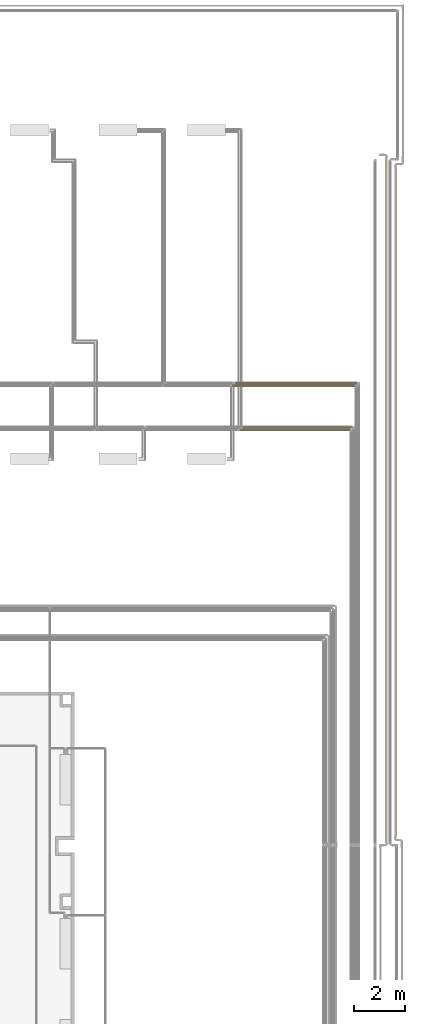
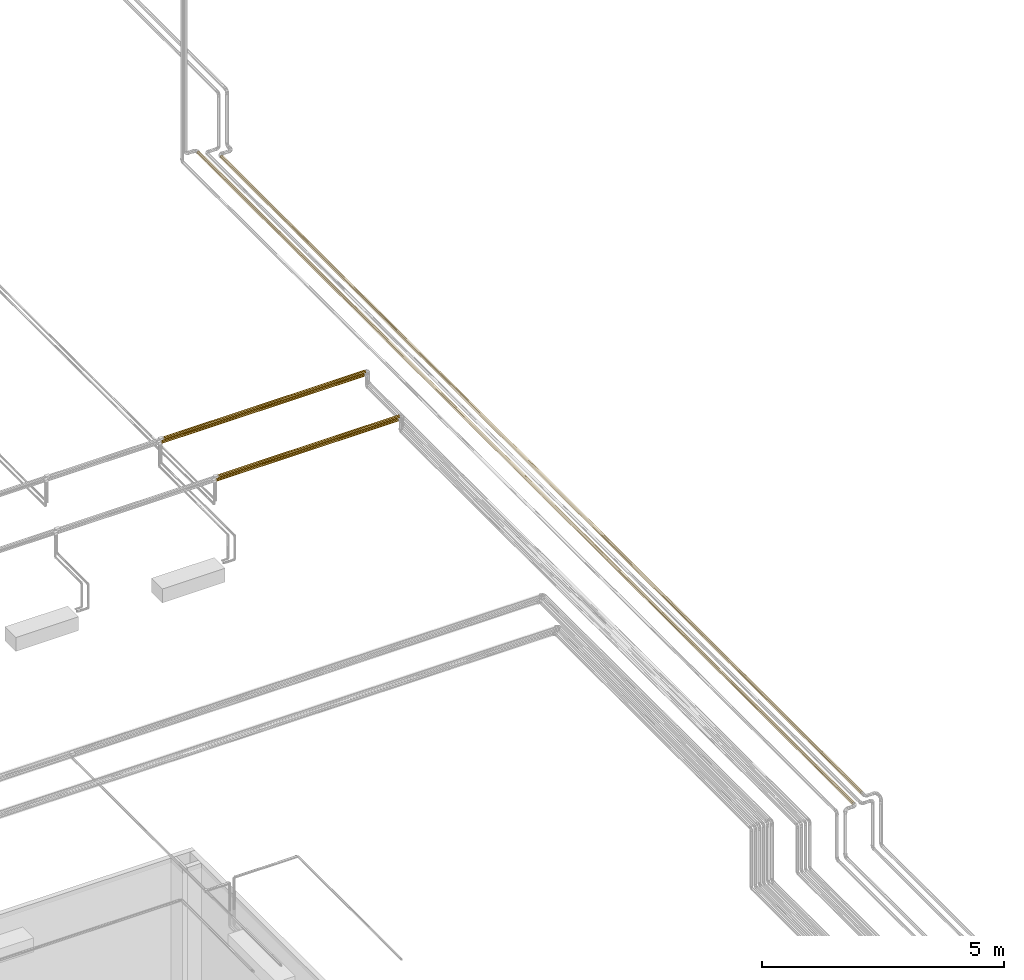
# One storey, part 139 of 652: 6 coverings.
"""IFC2X3 building model written with IfcOpenShell, lengths in millimetres."""

from ifc_helpers import new_model, entity, si_unit, converted_unit, direction, frame, origin, place, context, subcontext, project, spatial, faceted_brep, material, type_object, element, save


model = new_model("IFC2X3")

# Units and contexts
model_context = context("Model", 3, precision=0.01, world=frame((0.0, 0.0, 308426.39999999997)), true_north=direction((6.123233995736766e-17, 1.0)))
plan_context = context("Plan", 3, precision=0.01, world=frame((0.0, 0.0, 308426.39999999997)), true_north=direction((6.123233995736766e-17, 1.0)))
body_context = subcontext(model_context, "Body", "Model", "MODEL_VIEW")
ifc_project = project(units=[si_unit("LENGTHUNIT", "METRE", prefix="MILLI"), si_unit("AREAUNIT", "SQUARE_METRE"), si_unit("VOLUMEUNIT", "CUBIC_METRE"), converted_unit("PLANEANGLEUNIT", "DEGREE", entity("IfcPlaneAngleMeasure", 0.017453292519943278), si_unit("PLANEANGLEUNIT", "RADIAN"), dimensions=[0, 0, 0, 0, 0, 0, 0])], contexts=[model_context, plan_context])

# Site, building, storey
site_placement = place(None, origin())
site = spatial("IfcSite", under=ifc_project, at=site_placement, Name="Default", CompositionType="ELEMENT")
building_placement = place(site_placement, origin())
building = spatial("IfcBuilding", under=site, at=building_placement, CompositionType="ELEMENT")
storey_placement = place(building_placement, frame((0.0, 0.0, 1730.6999999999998)))
storey = spatial("IfcBuildingStorey", under=building, at=storey_placement, Name="EG_Produktion_FFB", CompositionType="ELEMENT", Elevation=1730.6999999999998)

# Coverings
ifc_material = material(Name="Dämmung - Armaflex-Schlauch")
covering_type = type_object("IfcCoveringType", Name="Rohrdämmung außen:Armaflex-Schlauch", PredefinedType="INSULATION")
covering_1_placement = place(storey_placement, frame((79280.49747546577, 51981.928353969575, 3558.404727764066)))
element("IfcCovering", 1, at=covering_1_placement, inside=storey, type_object=covering_type, material=ifc_material, Name="Rohrdämmung außen:Armaflex-Schlauch", ObjectType="Rohrdämmung außen:Armaflex-Schlauch", PredefinedType="INSULATION", context=body_context, shape_type="Brep", body=[
    faceted_brep([(69.87954348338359, 26507.081749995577, 13.311000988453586), (62.80847567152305, 26507.081749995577, 10.382068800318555), (55.737407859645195, 26507.081749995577, 7.453136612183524), (47.9575492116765, 26507.081749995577, 4.23061364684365), (41.595272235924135, 26507.081749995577, 1.595272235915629), (34.524204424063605, 26507.081749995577, 4.524204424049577), (27.45313661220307, 26507.081749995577, 7.453136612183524), (20.382068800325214, 26507.081749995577, 10.382068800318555), (13.311000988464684, 26507.081749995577, 13.311000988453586), (10.382068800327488, 26507.081749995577, 20.382068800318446), (7.453136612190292, 26507.081749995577, 27.453136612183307), (4.230613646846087, 26507.081749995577, 35.232995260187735), (1.5952722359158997, 26507.081749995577, 41.595272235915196), (4.524204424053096, 26507.081749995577, 48.66634004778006), (7.453136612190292, 26507.081749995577, 55.737407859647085), (10.382068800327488, 26507.081749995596, 62.80847567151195), (13.311000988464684, 26507.081749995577, 69.8795434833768), (20.382068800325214, 26507.081749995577, 72.80847567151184), (27.45313661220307, 26507.081749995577, 75.73740785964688), (35.232995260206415, 26507.081749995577, 78.95993082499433), (41.595272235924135, 26507.081749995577, 81.59527223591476), (48.666340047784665, 26507.081749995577, 78.66634004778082), (55.737407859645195, 26507.081749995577, 75.73740785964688), (62.80847567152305, 26507.081749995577, 72.80847567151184), (69.87954348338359, 26507.081749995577, 69.8795434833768), (72.80847567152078, 26507.081749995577, 62.80847567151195), (75.73740785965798, 26507.081749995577, 55.737407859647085), (78.9599308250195, 26507.081749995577, 47.95754921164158), (81.59527223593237, 26507.081749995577, 41.595272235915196), (78.95993082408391, 26507.081749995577, 35.23299525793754), (75.73740785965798, 26507.081749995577, 27.453136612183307), (72.80847567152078, 26507.081749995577, 20.382068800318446), (69.87954348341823, 0.0, 69.87954348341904), (62.80847567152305, 0.0, 72.8084756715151), (55.73740785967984, 0.0, 75.73740785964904), (47.957549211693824, 0.0, 78.95993082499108), (41.59527223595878, 0.0, 81.595272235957), (35.232995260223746, 0.0, 78.95993082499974), (28.870718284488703, 0.0, 76.32458941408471), (21.09085963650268, 0.0, 73.10206644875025), (13.311000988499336, 0.0, 69.87954348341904), (10.38206880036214, 0.0, 62.80847567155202), (7.453136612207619, 0.0, 55.73740785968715), (4.230613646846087, 0.0, 47.95754921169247), (1.5952722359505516, 0.0, 41.59527223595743), (4.230613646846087, 0.0, 35.232995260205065), (6.865955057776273, 0.0, 28.8707182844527), (10.088478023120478, 0.0, 21.090859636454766), (13.311000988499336, 0.0, 13.311000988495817), (20.38206880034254, 0.0, 10.38206880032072), (27.45313661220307, 0.0, 7.45313661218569), (35.23299526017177, 0.0, 4.230613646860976), (41.59527223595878, 0.0, 1.5952722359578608), (47.95754921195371, 0.0, 4.230613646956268), (54.31982618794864, 0.0, 6.865955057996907), (62.0996848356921, 0.0, 10.088478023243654), (69.87954348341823, 0.0, 13.311000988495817), (72.80847567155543, 0.0, 20.38206880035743), (75.7374078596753, 0.0, 27.45313661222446), (78.66634004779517, 0.0, 34.52420442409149), (81.59527223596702, 0.0, 41.59527223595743), (78.95993082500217, 0.0, 47.95754921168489), (76.324589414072, 0.0, 54.31982618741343), (73.10206644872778, 0.0, 62.09968483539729), (81.5952722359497, 14133.425923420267, 41.595272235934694), (69.87954348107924, 17553.19631406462, 13.311000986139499), (74.85405672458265, 13253.54087303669, 19.372462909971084), (79.98529640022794, 15834.769941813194, 30.361125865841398), (63.818081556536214, 13253.54087550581, 8.336487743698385), (52.829418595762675, 15834.769951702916, 3.205248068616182), (41.59527223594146, 14133.658823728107, 1.595272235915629), (41.59527223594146, 12373.240935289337, 1.595272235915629), (30.361125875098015, 10672.311798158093, 3.2052480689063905), (13.311000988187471, 17553.196313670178, 13.311000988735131), (19.372462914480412, 13253.54087479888, 8.336487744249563), (8.336487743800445, 13253.540875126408, 19.372462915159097), (3.2052480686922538, 15834.769952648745, 30.361125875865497), (1.5952722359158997, 14134.389498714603, 41.595272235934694), (1.5952722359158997, 12374.496806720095, 41.59527223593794), (3.205248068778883, 10672.311797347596, 52.82941859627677), (19.37246291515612, 13253.54087506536, 74.85405672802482), (30.36112587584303, 15834.769952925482, 79.98529640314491), (8.336487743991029, 13253.540874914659, 63.818081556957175), (13.31100098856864, 17553.196313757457, 69.87954348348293), (41.59527223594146, 14133.42591247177, 81.59527223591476), (41.59527223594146, 12373.655837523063, 81.59527223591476), (52.829418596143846, 10672.31179706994, 79.9852964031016), (74.8540567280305, 13253.5408750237, 63.81808155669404), (79.98529640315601, 15834.769953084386, 52.82941859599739), (63.818081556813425, 13253.540874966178, 74.85405672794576), (69.87954348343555, 17553.196313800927, 69.87954348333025)], [[[0, 1, 2, 3, 4, 5, 6, 7, 8, 9, 10, 11, 12, 13, 14, 15, 16, 17, 18, 19, 20, 21, 22, 23, 24, 25, 26, 27, 28, 29, 30, 31]], [[32, 33, 34, 35, 36, 37, 38, 39, 40, 41, 42, 43, 44, 45, 46, 47, 48, 49, 50, 51, 52, 53, 54, 55, 56, 57, 58, 59, 60, 61, 62, 63]], [[60, 59, 64]], [[64, 29, 28]], [[65, 0, 31]], [[66, 58, 57, 56]], [[67, 29, 64]], [[31, 30, 66]], [[68, 2, 1]], [[59, 58, 67]], [[56, 65, 66]], [[68, 65, 56]], [[64, 59, 67]], [[30, 29, 67]], [[30, 67, 66]], [[69, 54, 53]], [[69, 3, 2]], [[68, 56, 55, 54]], [[70, 3, 69]], [[70, 4, 3]], [[0, 65, 1]], [[53, 52, 71, 70]], [[69, 68, 54]], [[65, 31, 66]], [[58, 66, 67]], [[2, 68, 69]], [[1, 65, 68]], [[53, 70, 69]], [[71, 51, 72]], [[48, 73, 74]], [[72, 6, 5]], [[50, 74, 72]], [[10, 75, 76]], [[74, 7, 6]], [[10, 76, 11]], [[75, 73, 48]], [[72, 51, 50]], [[71, 52, 51]], [[73, 8, 7]], [[5, 4, 70, 71]], [[74, 50, 49, 48]], [[72, 74, 6]], [[76, 46, 45]], [[11, 76, 77]], [[75, 48, 47, 46]], [[77, 12, 11]], [[73, 9, 8]], [[45, 44, 78, 77]], [[75, 10, 9]], [[76, 75, 46]], [[73, 7, 74]], [[5, 71, 72]], [[9, 73, 75]], [[45, 77, 76]], [[78, 43, 79]], [[18, 80, 81]], [[79, 14, 13]], [[42, 82, 79]], [[80, 18, 17]], [[82, 15, 14]], [[18, 81, 19]], [[80, 83, 40]], [[79, 43, 42]], [[78, 44, 43]], [[83, 16, 15]], [[13, 12, 77, 78]], [[82, 42, 41, 40]], [[79, 82, 14]], [[81, 38, 37]], [[19, 81, 84]], [[80, 40, 39, 38]], [[84, 20, 19]], [[16, 83, 17]], [[37, 36, 85, 84]], [[40, 83, 82]], [[81, 80, 38]], [[83, 15, 82]], [[13, 78, 79]], [[17, 83, 80]], [[37, 84, 81]], [[85, 35, 86]], [[26, 87, 88]], [[86, 22, 21]], [[89, 34, 33, 32]], [[87, 26, 25]], [[89, 23, 22]], [[32, 90, 89]], [[87, 90, 32]], [[86, 35, 34]], [[85, 36, 35]], [[90, 24, 23]], [[21, 20, 84, 85]], [[90, 23, 89]], [[86, 89, 22]], [[88, 62, 61]], [[88, 27, 26]], [[87, 32, 63, 62]], [[64, 27, 88]], [[64, 28, 27]], [[24, 90, 25]], [[61, 60, 64]], [[88, 87, 62]], [[34, 89, 86]], [[21, 85, 86]], [[25, 90, 87]], [[61, 64, 88]]]),
])
covering_2_placement = place(storey_placement, frame((78938.40472776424, 51727.7483539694, 3558.4047277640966)))
element("IfcCovering", 2, at=covering_2_placement, inside=storey, type_object=covering_type, material=ifc_material, Name="Rohrdämmung außen:Armaflex-Schlauch", ObjectType="Rohrdämmung außen:Armaflex-Schlauch", PredefinedType="INSULATION", context=body_context, shape_type="Brep", body=[
    faceted_brep([(69.87954348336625, 0.0, 69.87954348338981), (62.808475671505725, 0.0, 72.80847567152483), (55.737407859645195, 0.0, 75.73740785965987), (47.95754921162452, 0.0, 78.95993082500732), (41.595272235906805, 0.0, 81.59527223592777), (35.23299526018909, 0.0, 78.95993082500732), (27.453136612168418, 0.0, 75.73740785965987), (20.382068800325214, 0.0, 72.80847567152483), (13.31100098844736, 0.0, 69.87954348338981), (10.382068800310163, 0.0, 62.808475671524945), (7.453136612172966, 0.0, 55.73740785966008), (4.230613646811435, 0.0, 47.95754921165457), (1.5952722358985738, 0.0, 41.59527223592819), (4.230613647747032, 0.0, 35.23299525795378), (7.453136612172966, 0.0, 27.453136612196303), (10.382068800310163, 0.0, 20.38206880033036), (13.31100098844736, 0.0, 13.31100098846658), (20.382068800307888, 0.0, 10.382068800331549), (27.453136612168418, 0.0, 7.453136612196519), (35.23299526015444, 0.0, 4.230613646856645), (41.595272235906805, 0.0, 1.5952722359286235), (48.666340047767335, 0.0, 4.524204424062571), (55.737407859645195, 0.0, 7.453136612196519), (62.808475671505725, 0.0, 10.382068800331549), (69.87954348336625, 0.0, 13.31100098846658), (72.80847567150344, 0.0, 20.382068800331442), (75.73740785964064, 0.0, 27.453136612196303), (78.95993082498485, 0.0, 35.23299526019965), (81.59527223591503, 0.0, 41.59527223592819), (78.66634004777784, 0.0, 48.66634004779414), (75.73740785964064, 0.0, 55.73740785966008), (72.80847567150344, 0.0, 62.808475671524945), (69.87954348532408, 27131.39230701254, 13.311000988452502), (62.80847567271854, 27131.39230701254, 10.382068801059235), (55.737407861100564, 27131.39230701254, 7.4531366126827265), (47.95754921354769, 27131.39230701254, 4.230613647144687), (41.59527223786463, 27131.39230701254, 1.5952722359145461), (35.23299526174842, 27131.39230701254, 4.23061364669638), (28.87071828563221, 27131.39230701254, 6.86595505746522), (21.090859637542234, 27131.39230701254, 10.088478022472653), (13.311000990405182, 27131.39230701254, 13.311000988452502), (10.382068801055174, 27131.39230701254, 20.38206879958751), (7.453136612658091, 27131.39230701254, 27.453136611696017), (4.230613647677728, 27131.39230701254, 35.23299525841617), (1.5952722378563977, 27131.39230701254, 41.595272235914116), (4.230613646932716, 27131.39230701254, 47.95754921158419), (7.453136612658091, 27131.39230701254, 55.73740786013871), (10.38206880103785, 27131.39230701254, 62.80847567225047), (13.311000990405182, 27131.39230701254, 69.87954348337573), (21.090859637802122, 27131.39230701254, 73.10206644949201), (28.870718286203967, 27131.39230701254, 76.32458941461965), (35.23299526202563, 27131.39230701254, 78.9599308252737), (41.59527223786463, 27131.39230701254, 81.59527223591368), (47.95754921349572, 27131.39230701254, 78.9599308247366), (55.737407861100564, 27131.39230701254, 75.73740785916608), (62.80847567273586, 27131.39230701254, 72.80847567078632), (69.87954348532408, 27131.39230701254, 69.87954348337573), (73.10206644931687, 27131.39230701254, 62.09968483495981), (76.32458941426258, 27131.392307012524, 54.31982618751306), (78.9599308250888, 27131.39230701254, 47.957549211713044), (81.59527223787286, 27131.39230701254, 41.595272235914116), (78.95993082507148, 27131.39230701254, 35.23299526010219), (76.32458941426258, 27131.39230701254, 28.870718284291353), (73.10206644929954, 27131.39230701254, 21.09085963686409), (3.205248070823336, 16137.688531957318, 30.361125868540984), (8.336487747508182, 13565.696155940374, 19.37246290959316), (1.5952722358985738, 12997.966383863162, 41.5952722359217), (13.3110009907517, 9056.414681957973, 13.31100098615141), (1.5952722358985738, 14133.425912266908, 41.5952722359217), (19.37246291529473, 13565.69615259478, 8.336487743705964), (30.36112587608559, 10769.02299548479, 3.205248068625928), (34.37736156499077, 19873.725424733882, 2.2518894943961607), (41.595272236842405, 12997.950593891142, 1.5952722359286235), (41.595272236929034, 14133.502489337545, 1.5952722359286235), (25.973192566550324, 18372.4608202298, 4.772037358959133), (52.829418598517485, 16362.369311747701, 3.2052480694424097), (69.87954348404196, 9056.414682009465, 13.31100098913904), (63.81808155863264, 13565.696154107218, 8.336487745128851), (74.8540567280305, 13565.69615297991, 19.372462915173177), (79.98529640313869, 10769.022993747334, 30.361125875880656), (80.93865497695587, 19873.72542430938, 34.37736156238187), (81.59527223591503, 12997.074159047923, 41.5952722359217), (81.59527223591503, 13001.037357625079, 41.5952722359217), (78.41850711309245, 18372.460815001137, 25.973192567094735), (80.9726637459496, 20064.67935047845, 48.625282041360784), (63.818081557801, 13565.696153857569, 74.85405672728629), (41.59527223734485, 20064.72869347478, 81.59527223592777), (41.595272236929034, 14133.470080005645, 81.59527223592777), (69.87954348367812, 9056.414682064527, 69.87954348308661), (41.595272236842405, 12998.065079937, 81.59527223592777), (74.85405672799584, 13565.696153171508, 63.81808155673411), (80.24050937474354, 9624.44901252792, 51.917367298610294), (52.82941859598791, 10993.70377268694, 79.9852964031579), (78.47693131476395, 18299.11961220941, 57.078915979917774), (13.311000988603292, 9056.414682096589, 69.87954348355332), (19.37246291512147, 13565.696153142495, 74.85405672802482), (8.336487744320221, 13565.696153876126, 63.8180815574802), (31.11883450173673, 16531.32287336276, 80.19895408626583), (3.2052480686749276, 10993.703773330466, 52.8294185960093)], [[[0, 1, 2, 3, 4, 5, 6, 7, 8, 9, 10, 11, 12, 13, 14, 15, 16, 17, 18, 19, 20, 21, 22, 23, 24, 25, 26, 27, 28, 29, 30, 31]], [[32, 33, 34, 35, 36, 37, 38, 39, 40, 41, 42, 43, 44, 45, 46, 47, 48, 49, 50, 51, 52, 53, 54, 55, 56, 57, 58, 59, 60, 61, 62, 63]], [[64, 43, 42]], [[65, 42, 41, 40]], [[12, 66, 13]], [[67, 16, 15]], [[43, 66, 68, 44]], [[14, 13, 64]], [[69, 18, 17]], [[64, 66, 43]], [[67, 15, 65]], [[69, 67, 40]], [[70, 71, 72]], [[18, 70, 19]], [[19, 70, 72]], [[71, 36, 73, 72]], [[69, 39, 74]], [[14, 65, 15]], [[42, 65, 64]], [[64, 13, 66]], [[14, 64, 65]], [[72, 20, 19]], [[16, 67, 17]], [[40, 67, 65]], [[70, 74, 71]], [[74, 70, 69]], [[71, 38, 37, 36]], [[18, 69, 70]], [[38, 71, 74]], [[39, 69, 40]], [[39, 38, 74]], [[17, 67, 69]], [[73, 35, 75]], [[75, 22, 21]], [[21, 20, 72, 73]], [[76, 24, 23]], [[73, 36, 35]], [[77, 34, 33, 32]], [[26, 78, 79]], [[76, 23, 77]], [[26, 79, 27]], [[78, 76, 32]], [[75, 35, 34]], [[79, 80, 81]], [[27, 79, 81]], [[80, 60, 82, 81]], [[78, 63, 83]], [[22, 77, 23]], [[34, 77, 75]], [[75, 77, 22]], [[81, 28, 27]], [[76, 25, 24]], [[78, 26, 25]], [[79, 83, 80]], [[83, 79, 78]], [[80, 62, 61, 60]], [[32, 76, 77]], [[62, 80, 83]], [[63, 78, 32]], [[63, 62, 83]], [[25, 76, 78]], [[21, 73, 75]], [[60, 84, 82]], [[85, 56, 55, 54]], [[53, 52, 86, 87]], [[0, 88, 1]], [[3, 87, 89, 4]], [[90, 30, 91]], [[85, 2, 1]], [[2, 85, 92]], [[91, 82, 84]], [[84, 60, 59, 58]], [[91, 28, 81, 82]], [[90, 93, 57]], [[56, 85, 88]], [[53, 92, 54]], [[85, 1, 88]], [[3, 2, 92]], [[58, 93, 84]], [[88, 31, 90]], [[91, 84, 93]], [[91, 30, 29, 28]], [[57, 56, 90]], [[91, 93, 90]], [[93, 58, 57]], [[31, 88, 0]], [[31, 30, 90]], [[56, 88, 90]], [[87, 3, 92]], [[92, 53, 87]], [[54, 92, 85]], [[94, 7, 95]], [[94, 48, 96]], [[6, 5, 97]], [[97, 51, 50]], [[96, 48, 47, 46]], [[96, 10, 9]], [[86, 51, 97]], [[5, 4, 89]], [[94, 8, 7]], [[86, 52, 51]], [[44, 68, 45]], [[8, 94, 9]], [[11, 68, 66, 12]], [[95, 50, 49, 48]], [[98, 11, 10]], [[45, 98, 46]], [[98, 68, 11]], [[97, 89, 87, 86]], [[48, 94, 95]], [[97, 5, 89]], [[6, 97, 95]], [[50, 95, 97]], [[6, 95, 7]], [[9, 94, 96]], [[10, 96, 98]], [[98, 45, 68]], [[46, 98, 96]]]),
])
covering_3_placement = place(storey_placement, frame((72986.75968313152, 69876.94222776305, 3938.0577722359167)))
element("IfcCovering", 3, at=covering_3_placement, inside=storey, type_object=covering_type, material=ifc_material, Name="Rohrdämmung außen:Armaflex-Schlauch", ObjectType="Rohrdämmung außen:Armaflex-Schlauch", PredefinedType="INSULATION", context=body_context, shape_type="Brep", body=[
    faceted_brep([(0.0, 1.5952722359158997, -38.057772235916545), (0.0, 4.917909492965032, -30.036216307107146), (0.0, 6.935081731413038, -25.16633173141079), (0.0, 9.604986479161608, -18.72061147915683), (0.0, 12.274891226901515, -12.274891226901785), (0.0, 18.72061147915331, -9.604986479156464), (0.0, 25.166331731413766, -6.935081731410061), (0.0, 31.612051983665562, -4.265176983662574), (0.0, 38.057772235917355, -1.5952722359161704), (0.0, 46.07932816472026, -4.917909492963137), (0.0, 50.94921274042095, -6.935081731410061), (0.0, 57.39493299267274, -9.604986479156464), (0.0, 63.8406532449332, -12.274891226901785), (0.0, 66.51055799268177, -18.72061147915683), (0.0, 69.18046274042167, -25.166331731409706), (0.0, 71.85036748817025, -31.612051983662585), (0.0, 74.52027223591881, -38.057772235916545), (0.0, 71.85036748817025, -44.50349248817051), (0.0, 69.18046274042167, -50.949212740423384), (0.0, 66.5105579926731, -57.39493299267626), (0.0, 63.8406532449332, -63.8406532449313), (0.0, 57.39493299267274, -66.51055799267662), (0.0, 50.94921274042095, -69.18046274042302), (0.0, 44.50349248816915, -71.85036748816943), (0.0, 38.057772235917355, -74.52027223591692), (0.0, 30.036216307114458, -71.19763497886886), (0.0, 25.166331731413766, -69.18046274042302), (0.0, 18.72061147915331, -66.5105579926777), (0.0, 12.274891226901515, -63.8406532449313), (0.0, 9.604986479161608, -57.39493299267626), (0.0, 6.935081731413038, -50.949212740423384), (0.0, 4.265176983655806, -44.50349248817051), (4819.156066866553, 18.72061147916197, -66.51055799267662), (4819.156066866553, 25.166331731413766, -69.18046274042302), (4819.156066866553, 31.612051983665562, -71.85036748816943), (4819.156066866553, 38.057772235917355, -74.52027223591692), (4819.156066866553, 46.0793281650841, -71.19763497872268), (4819.156066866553, 54.100884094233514, -67.87499772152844), (4819.156066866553, 63.8406532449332, -63.8406532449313), (4819.156066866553, 66.5105579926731, -57.39493299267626), (4819.156066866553, 69.18046274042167, -50.949212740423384), (4819.1560668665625, 71.85036748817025, -44.50349248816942), (4819.156066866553, 74.52027223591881, -38.057772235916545), (4819.156066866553, 71.19763497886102, -30.036216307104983), (4819.156066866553, 67.87499772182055, -22.0146603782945), (4819.156066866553, 63.8406532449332, -12.274891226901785), (4819.156066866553, 57.394932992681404, -9.604986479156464), (4819.156066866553, 50.94921274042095, -6.935081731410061), (4819.156066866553, 44.50349248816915, -4.265176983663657), (4819.156066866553, 38.057772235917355, -1.5952722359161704), (4819.156066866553, 30.03621630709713, -4.917909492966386), (4819.1560668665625, 22.01466037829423, -8.240546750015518), (4819.156066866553, 12.274891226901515, -12.274891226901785), (4819.156066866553, 9.604986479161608, -18.72061147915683), (4819.156066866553, 6.935081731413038, -25.166331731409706), (4819.156066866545, 4.265176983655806, -31.612051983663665), (4819.156066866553, 1.5952722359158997, -38.057772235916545), (4819.156066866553, 4.917909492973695, -46.07932816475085), (4819.156066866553, 8.24054675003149, -54.10088409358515), (4819.156066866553, 12.274891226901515, -63.8406532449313)], [[[0, 1, 2, 3, 4, 5, 6, 7, 8, 9, 10, 11, 12, 13, 14, 15, 16, 17, 18, 19, 20, 21, 22, 23, 24, 25, 26, 27, 28, 29, 30, 31]], [[32, 33, 34, 35, 36, 37, 38, 39, 40, 41, 42, 43, 44, 45, 46, 47, 48, 49, 50, 51, 52, 53, 54, 55, 56, 57, 58, 59]], [[40, 39, 38, 20, 19, 18, 17, 16, 42, 41]], [[38, 37, 36, 35, 24, 23, 22, 21, 20]], [[56, 0, 31, 30, 29, 28, 59, 58, 57]], [[27, 26, 25, 24, 35, 34, 33, 32, 59, 28]], [[49, 8, 7, 6, 5, 4, 52, 51, 50]], [[3, 2, 1, 0, 56, 55, 54, 53, 52, 4]], [[42, 16, 15, 14, 13, 12, 45, 44, 43]], [[11, 10, 9, 8, 49, 48, 47, 46, 45, 12]]]),
])
covering_4_placement = place(storey_placement, frame((73286.75968313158, 68126.94222776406, 3938.057772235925)))
element("IfcCovering", 4, at=covering_4_placement, inside=storey, type_object=covering_type, material=ifc_material, Name="Rohrdämmung außen:Armaflex-Schlauch", ObjectType="Rohrdämmung außen:Armaflex-Schlauch", PredefinedType="INSULATION", context=body_context, shape_type="Brep", body=[
    faceted_brep([(4319.156066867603, 74.52027223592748, -38.057772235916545), (4319.156066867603, 70.81299534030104, -29.107614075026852), (4319.156066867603, 69.180462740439, -25.166331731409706), (4319.156066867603, 66.51055799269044, -18.720611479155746), (4319.156066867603, 63.84065324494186, -12.274891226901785), (4319.156066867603, 57.394932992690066, -9.604986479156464), (4319.156066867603, 50.94921274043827, -6.935081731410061), (4319.156066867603, 44.50349248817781, -4.265176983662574), (4319.156066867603, 38.057772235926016, -1.5952722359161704), (4319.156066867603, 29.107614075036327, -5.302549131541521), (4319.156066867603, 25.166331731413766, -6.935081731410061), (4319.156066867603, 18.72061147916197, -9.604986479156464), (4319.156066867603, 12.274891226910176, -12.274891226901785), (4319.156066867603, 9.60498647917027, -18.72061147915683), (4319.156066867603, 6.935081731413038, -25.166331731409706), (4319.156066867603, 4.265176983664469, -31.612051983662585), (4319.156066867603, 1.5952722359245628, -38.057772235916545), (4319.156066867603, 4.265176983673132, -44.50349248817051), (4319.156066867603, 6.935081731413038, -50.949212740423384), (4319.156066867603, 9.604986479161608, -57.39493299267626), (4319.156066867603, 12.274891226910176, -63.8406532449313), (4319.156066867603, 18.72061147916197, -66.51055799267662), (4319.156066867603, 25.166331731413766, -69.18046274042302), (4319.156066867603, 31.612051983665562, -71.85036748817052), (4319.156066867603, 38.057772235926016, -74.52027223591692), (4319.156066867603, 47.00793039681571, -70.81299534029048), (4319.156066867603, 50.94921274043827, -69.18046274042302), (4319.156066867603, 57.394932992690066, -66.51055799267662), (4319.156066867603, 63.84065324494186, -63.8406532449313), (4319.156066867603, 66.51055799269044, -57.39493299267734), (4319.156066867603, 69.180462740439, -50.949212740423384), (4319.156066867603, 71.8503674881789, -44.50349248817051), (0.0, 57.394932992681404, -66.51055799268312), (0.0, 50.94921274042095, -69.18046274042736), (0.0, 44.50349248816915, -71.85036748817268), (0.0, 38.057772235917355, -74.52027223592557), (0.0, 29.107614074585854, -70.81299534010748), (0.0, 20.157455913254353, -67.10571844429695), (0.0, 12.274891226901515, -63.840653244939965), (0.0, 9.604986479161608, -57.39493299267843), (0.0, 6.935081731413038, -50.94921274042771), (0.0, 4.265176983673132, -44.503492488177), (0.0, 1.5952722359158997, -38.057772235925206), (0.0, 5.302549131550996, -29.107614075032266), (0.0, 9.009826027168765, -20.157455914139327), (0.0, 12.274891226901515, -12.274891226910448), (0.0, 18.72061147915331, -9.604986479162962), (0.0, 25.166331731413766, -6.9350817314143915), (0.0, 31.612051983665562, -4.26517698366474), (0.0, 38.057772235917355, -1.5952722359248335), (0.0, 47.00793039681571, -5.302549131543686), (0.0, 55.95808855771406, -9.009826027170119), (0.0, 63.8406532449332, -12.274891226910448), (0.0, 66.51055799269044, -18.720611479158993), (0.0, 69.180462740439, -25.166331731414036), (0.0, 71.85036748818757, -31.61205198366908), (0.0, 74.52027223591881, -38.057772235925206), (0.0, 70.81299534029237, -47.00793039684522), (0.0, 67.10571844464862, -55.95808855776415), (0.0, 63.8406532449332, -63.840653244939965)], [[[0, 1, 2, 3, 4, 5, 6, 7, 8, 9, 10, 11, 12, 13, 14, 15, 16, 17, 18, 19, 20, 21, 22, 23, 24, 25, 26, 27, 28, 29, 30, 31]], [[32, 33, 34, 35, 36, 37, 38, 39, 40, 41, 42, 43, 44, 45, 46, 47, 48, 49, 50, 51, 52, 53, 54, 55, 56, 57, 58, 59]], [[40, 39, 38, 20, 19, 18, 17, 16, 42, 41]], [[38, 37, 36, 35, 24, 23, 22, 21, 20]], [[30, 29, 28, 59, 58, 57, 56, 0, 31]], [[27, 26, 25, 24, 35, 34, 33, 32, 59, 28]], [[6, 5, 4, 52, 51, 50, 49, 8, 7]], [[3, 2, 1, 0, 56, 55, 54, 53, 52, 4]], [[14, 13, 12, 45, 44, 43, 42, 16, 15]], [[11, 10, 9, 8, 49, 48, 47, 46, 45, 12]]]),
])
covering_5_placement = place(storey_placement, frame((72878.06018313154, 69780.11722776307, 3865.1172277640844)))
element("IfcCovering", 5, at=covering_5_placement, inside=storey, type_object=covering_type, material=ifc_material, Name="Rohrdämmung außen:Armaflex-Schlauch", ObjectType="Rohrdämmung außen:Armaflex-Schlauch", PredefinedType="INSULATION", context=body_context, shape_type="Brep", body=[
    faceted_brep([(0.0, 1.5952722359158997, 34.88277223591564), (0.0, 4.479909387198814, 41.84690236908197), (0.0, 6.470113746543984, 46.65168072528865), (0.0, 8.907534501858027, 52.536134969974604), (0.0, 11.344955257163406, 58.42058921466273), (0.0, 17.229409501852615, 60.85800996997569), (0.0, 23.113863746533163, 63.295430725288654), (0.0, 28.998317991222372, 65.73285148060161), (0.0, 34.88277223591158, 68.17027223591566), (0.0, 41.846902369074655, 65.28563508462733), (0.0, 46.65168072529, 63.295430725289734), (0.0, 52.53613496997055, 60.85800996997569), (0.0, 58.420589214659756, 58.42058921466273), (0.0, 60.8580099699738, 52.53613496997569), (0.0, 63.295430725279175, 46.65168072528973), (0.0, 65.73285148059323, 40.76722648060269), (0.0, 68.17027223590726, 34.88277223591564), (0.0, 65.73285148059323, 28.9983179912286), (0.0, 63.295430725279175, 23.113863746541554), (0.0, 60.85800996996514, 17.229409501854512), (0.0, 58.420589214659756, 11.34495525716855), (0.0, 52.53613496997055, 8.90753450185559), (0.0, 46.65168072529, 6.470113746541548), (0.0, 40.76722648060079, 4.032692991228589), (0.0, 34.88277223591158, 1.595272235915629), (0.0, 27.91864210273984, 4.47990938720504), (0.0, 23.113863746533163, 6.470113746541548), (0.0, 17.229409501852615, 8.90753450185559), (0.0, 11.344955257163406, 11.34495525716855), (0.0, 8.907534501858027, 17.229409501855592), (0.0, 6.470113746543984, 23.113863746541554), (0.0, 4.0326929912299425, 28.9983179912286), (4841.889066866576, 17.229409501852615, 8.90753450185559), (4841.889066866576, 23.113863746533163, 6.470113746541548), (4841.889066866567, 28.998317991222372, 4.032692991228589), (4841.889066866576, 34.88277223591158, 1.595272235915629), (4841.889066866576, 41.84690236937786, 4.479909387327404), (4841.889066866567, 48.811032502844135, 7.364546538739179), (4841.889066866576, 58.420589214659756, 11.34495525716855), (4841.889066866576, 60.85800996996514, 17.229409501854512), (4841.889066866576, 63.295430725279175, 23.113863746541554), (4841.889066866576, 65.73285148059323, 28.9983179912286), (4841.889066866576, 68.17027223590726, 34.88277223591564), (4841.889066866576, 65.28563508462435, 41.84690236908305), (4841.889066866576, 62.400997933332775, 48.81103250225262), (4841.889066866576, 58.420589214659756, 58.42058921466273), (4841.889066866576, 52.53613496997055, 60.85800996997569), (4841.889066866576, 46.65168072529, 63.295430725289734), (4841.889066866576, 40.76722648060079, 65.73285148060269), (4841.889066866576, 34.88277223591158, 68.17027223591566), (4841.889066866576, 27.91864210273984, 65.28563508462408), (4841.889066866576, 20.954511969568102, 62.400997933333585), (4841.889066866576, 11.344955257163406, 58.42058921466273), (4841.889066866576, 8.907534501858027, 52.536134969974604), (4841.889066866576, 6.470113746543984, 46.65168072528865), (4841.889066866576, 4.0326929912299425, 40.7672264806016), (4841.889066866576, 1.5952722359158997, 34.88277223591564), (4841.889066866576, 4.479909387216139, 27.918642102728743), (4841.889066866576, 7.3645465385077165, 20.95451196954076), (4841.889066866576, 11.344955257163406, 11.34495525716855)], [[[0, 1, 2, 3, 4, 5, 6, 7, 8, 9, 10, 11, 12, 13, 14, 15, 16, 17, 18, 19, 20, 21, 22, 23, 24, 25, 26, 27, 28, 29, 30, 31]], [[32, 33, 34, 35, 36, 37, 38, 39, 40, 41, 42, 43, 44, 45, 46, 47, 48, 49, 50, 51, 52, 53, 54, 55, 56, 57, 58, 59]], [[40, 39, 38, 20, 19, 18, 17, 16, 42, 41]], [[38, 37, 36, 35, 24, 23, 22, 21, 20]], [[56, 0, 31, 30, 29, 28, 59, 58, 57]], [[27, 26, 25, 24, 35, 34, 33, 32, 59, 28]], [[49, 8, 7, 6, 5, 4, 52, 51, 50]], [[3, 2, 1, 0, 56, 55, 54, 53, 52, 4]], [[42, 16, 15, 14, 13, 12, 45, 44, 43]], [[11, 10, 9, 8, 49, 48, 47, 46, 45, 12]]]),
])
covering_6_placement = place(storey_placement, frame((73178.06018313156, 68030.11722776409, 3934.8827722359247)))
element("IfcCovering", 6, at=covering_6_placement, inside=storey, type_object=covering_type, material=ifc_material, Name="Rohrdämmung außen:Armaflex-Schlauch", ObjectType="Rohrdämmung außen:Armaflex-Schlauch", PredefinedType="INSULATION", context=body_context, shape_type="Brep", body=[
    faceted_brep([(4341.889066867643, 68.17027223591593, -34.882772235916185), (4341.889066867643, 64.95344820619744, -27.116672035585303), (4341.889066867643, 63.295430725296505, -23.113863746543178), (4341.889066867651, 60.85800996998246, -17.229409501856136), (4341.889066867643, 58.42058921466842, -11.344955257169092), (4341.889066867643, 52.53613496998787, -8.907534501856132), (4341.889066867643, 46.65168072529, -6.470113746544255), (4341.889066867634, 40.76722648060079, -4.0326929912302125), (4341.889066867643, 34.88277223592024, -1.5952722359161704), (4341.889066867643, 27.116672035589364, -4.812096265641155), (4341.889066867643, 23.11386374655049, -6.470113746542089), (4341.889066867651, 17.22940950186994, -8.907534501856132), (4341.889066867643, 11.344955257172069, -11.344955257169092), (4341.889066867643, 8.907534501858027, -17.229409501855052), (4341.889066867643, 6.470113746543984, -23.113863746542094), (4341.889066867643, 4.0326929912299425, -28.99831799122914), (4341.889066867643, 1.5952722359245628, -34.882772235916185), (4341.889066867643, 4.0326929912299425, -40.76722648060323), (4341.889066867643, 6.470113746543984, -46.65168072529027), (4341.889066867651, 8.907534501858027, -52.53613496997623), (4341.889066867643, 11.344955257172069, -58.42058921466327), (4341.889066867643, 17.229409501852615, -60.85800996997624), (4341.889066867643, 23.113863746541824, -63.295430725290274), (4341.889066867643, 28.998317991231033, -65.73285148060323), (4341.889066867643, 34.88277223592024, -68.1702722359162), (4341.889066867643, 42.648872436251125, -64.95344820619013), (4341.889066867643, 46.65168072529, -63.295430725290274), (4341.889066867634, 52.53613496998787, -60.85800996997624), (4341.889066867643, 58.42058921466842, -58.42058921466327), (4341.889066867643, 60.85800996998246, -52.53613496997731), (4341.889066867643, 63.295430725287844, -46.65168072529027), (4341.889066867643, 65.73285148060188, -40.76722648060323), (0.0, 52.53613496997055, -60.85800996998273), (0.0, 46.65168072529, -63.29543072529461), (0.0, 40.76722648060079, -65.7328514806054), (0.0, 34.88277223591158, -68.17027223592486), (0.0, 27.116672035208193, -64.95344820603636), (0.0, 19.35057183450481, -61.736624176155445), (0.0, 11.344955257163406, -58.420589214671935), (0.0, 8.907534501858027, -52.53613496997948), (0.0, 6.470113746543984, -46.651680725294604), (0.0, 4.0326929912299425, -40.76722648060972), (0.0, 1.5952722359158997, -34.88277223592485), (0.0, 4.812096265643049, -27.116672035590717), (0.0, 8.028920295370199, -19.350571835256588), (0.0, 11.344955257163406, -11.344955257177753), (0.0, 17.229409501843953, -8.90753450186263), (0.0, 23.113863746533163, -6.470113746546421), (0.0, 28.998317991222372, -4.032692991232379), (0.0, 34.88277223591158, -1.5952722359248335), (0.0, 42.648872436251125, -4.81209626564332), (0.0, 50.414972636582, -8.02892029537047), (0.0, 58.420589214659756, -11.344955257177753), (0.0, 60.85800996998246, -17.229409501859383), (0.0, 63.295430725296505, -23.11386374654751), (0.0, 65.73285148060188, -28.998317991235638), (0.0, 68.17027223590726, -34.88277223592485), (0.0, 64.95344820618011, -42.648872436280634), (0.0, 61.7366241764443, -50.41497263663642), (0.0, 58.420589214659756, -58.420589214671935)], [[[0, 1, 2, 3, 4, 5, 6, 7, 8, 9, 10, 11, 12, 13, 14, 15, 16, 17, 18, 19, 20, 21, 22, 23, 24, 25, 26, 27, 28, 29, 30, 31]], [[32, 33, 34, 35, 36, 37, 38, 39, 40, 41, 42, 43, 44, 45, 46, 47, 48, 49, 50, 51, 52, 53, 54, 55, 56, 57, 58, 59]], [[40, 39, 38, 20, 19, 18, 17, 16, 42, 41]], [[38, 37, 36, 35, 24, 23, 22, 21, 20]], [[30, 29, 28, 59, 58, 57, 56, 0, 31]], [[27, 26, 25, 24, 35, 34, 33, 32, 59, 28]], [[6, 5, 4, 52, 51, 50, 49, 8, 7]], [[3, 2, 1, 0, 56, 55, 54, 53, 52, 4]], [[14, 13, 12, 45, 44, 43, 42, 16, 15]], [[11, 10, 9, 8, 49, 48, 47, 46, 45, 12]]]),
])

save(model, "model.ifc")
